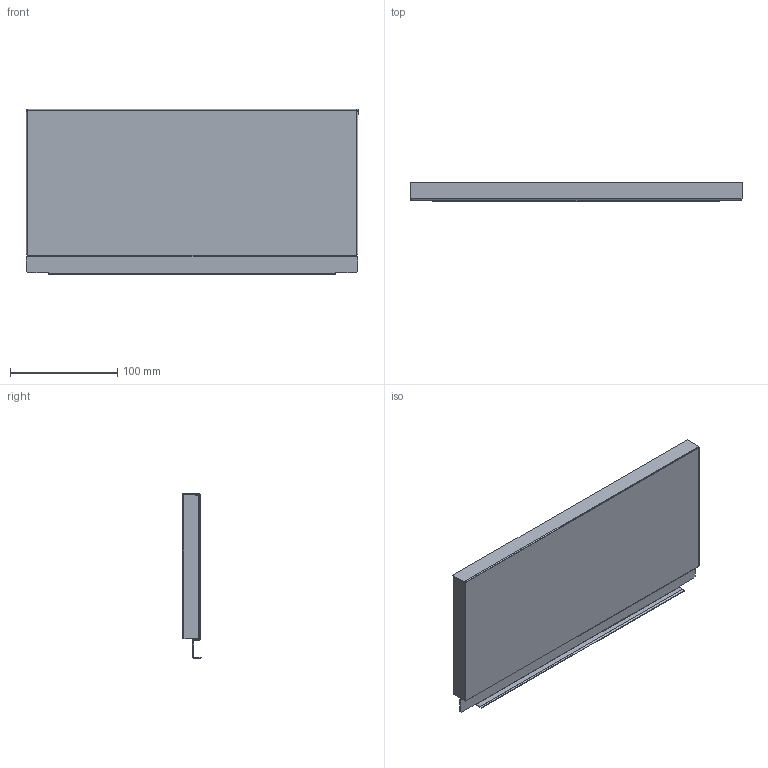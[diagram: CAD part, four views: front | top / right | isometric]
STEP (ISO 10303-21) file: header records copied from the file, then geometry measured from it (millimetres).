
FILE_DESCRIPTION (( 'STEP AP214' ), '1' );
FILE_NAME ('_STRW_H154_KAB_400.step', '2010-08-24T14:40:33', ( 'grass' ), ( '' ), 'SwSTEP 2.0', 'SolidWorks 2009', '' );
FILE_SCHEMA (( 'AUTOMOTIVE_DESIGN' ));
Length unit declared in the file: millimetre
Products named in the file (1): _STRW_H154_KAB_400
Bounding box: 310 x 17 x 154.14 mm (x, y, z)
Volume: 48977.1 mm3; surface area: 123307 mm2
Topology: 1 solids, 1 shells, 76 faces, 214 edges, 140 vertices
Faces by surface type: plane 54, cylinder 22
Entity records: 2472 total; most frequent: CARTESIAN_POINT 431, ORIENTED_EDGE 428, DIRECTION 412, EDGE_CURVE 214, LINE 170, VECTOR 170, VERTEX_POINT 140, AXIS2_PLACEMENT_3D 121
